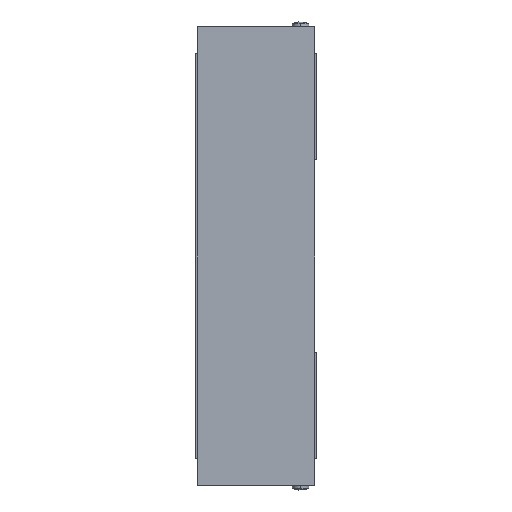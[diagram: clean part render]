
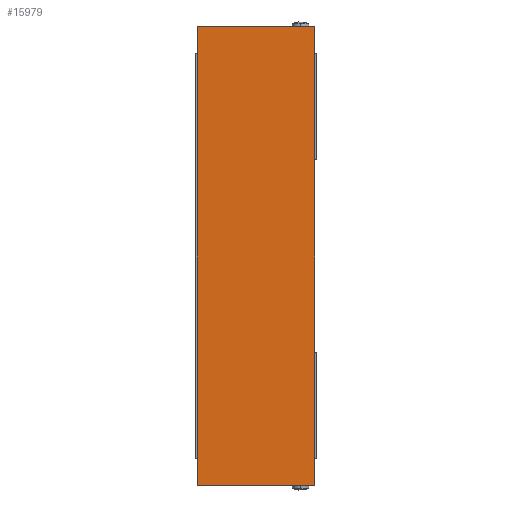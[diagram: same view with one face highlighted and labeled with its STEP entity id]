
A CAD part, left-side view. The second image highlights one B-rep face of the part: STEP entity #15979.
In plain terms, the highlighted planar face has unit normal (-1, 0, 0).
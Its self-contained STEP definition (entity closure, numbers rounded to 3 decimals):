
#11514 = DIRECTION ( 'NONE',  ( 0., 0., -1. ) ) ;
#11515 = VECTOR ( 'NONE', #11514, 1000. ) ;
#11516 = CARTESIAN_POINT ( 'NONE',  ( -266., 59., -113. ) ) ;
#11517 = LINE ( 'NONE', #11516, #11515 ) ;
#11553 = CARTESIAN_POINT ( 'NONE',  ( -266., 1., 113. ) ) ;
#11919 = DIRECTION ( 'NONE',  ( 0., 0., -1. ) ) ;
#11920 = DIRECTION ( 'NONE',  ( 1., 0., 0. ) ) ;
#11921 = CARTESIAN_POINT ( 'NONE',  ( -266., 59., -113. ) ) ;
#11932 = AXIS2_PLACEMENT_3D ( 'NONE', #11921, #11920, #11919 ) ;
#11933 = PLANE ( 'NONE',  #11932 ) ;
#11934 = FACE_OUTER_BOUND ( 'NONE', #15980, .T. ) ;
#12055 = CARTESIAN_POINT ( 'NONE',  ( -266., 1., -113. ) ) ;
#12068 = LINE ( 'NONE', #12085, #12084 ) ;
#12073 = VECTOR ( 'NONE', #12080, 1000. ) ;
#12074 = CARTESIAN_POINT ( 'NONE',  ( -266., 1., 113. ) ) ;
#12075 = LINE ( 'NONE', #12074, #12073 ) ;
#12080 = DIRECTION ( 'NONE',  ( 0., 1., 0. ) ) ;
#12084 = VECTOR ( 'NONE', #12094, 1000. ) ;
#12085 = CARTESIAN_POINT ( 'NONE',  ( -266., 1., -113. ) ) ;
#12093 = CARTESIAN_POINT ( 'NONE',  ( -266., 59., -113. ) ) ;
#12094 = DIRECTION ( 'NONE',  ( 0., -1., 0. ) ) ;
#12163 = DIRECTION ( 'NONE',  ( 0., 0., 1. ) ) ;
#12164 = VECTOR ( 'NONE', #12163, 1000. ) ;
#12165 = CARTESIAN_POINT ( 'NONE',  ( -266., 1., -113. ) ) ;
#12166 = LINE ( 'NONE', #12165, #12164 ) ;
#12167 = CARTESIAN_POINT ( 'NONE',  ( -266., 59., 113. ) ) ;
#15740 = EDGE_CURVE ( 'NONE', #16065, #16011, #11517, .T. ) ;
#15742 = VERTEX_POINT ( 'NONE', #11553 ) ;
#15979 = ADVANCED_FACE ( 'NONE', ( #11934 ), #11933, .F. ) ;
#15980 = EDGE_LOOP ( 'NONE', ( #15981, #16010, #16067, #16077 ) ) ;
#15981 = ORIENTED_EDGE ( 'NONE', *, *, #16009, .T. ) ;
#16004 = VERTEX_POINT ( 'NONE', #12055 ) ;
#16009 = EDGE_CURVE ( 'NONE', #16011, #16004, #12068, .T. ) ;
#16010 = ORIENTED_EDGE ( 'NONE', *, *, #16066, .T. ) ;
#16011 = VERTEX_POINT ( 'NONE', #12093 ) ;
#16020 = EDGE_CURVE ( 'NONE', #15742, #16065, #12075, .T. ) ;
#16065 = VERTEX_POINT ( 'NONE', #12167 ) ;
#16066 = EDGE_CURVE ( 'NONE', #16004, #15742, #12166, .T. ) ;
#16067 = ORIENTED_EDGE ( 'NONE', *, *, #16020, .T. ) ;
#16077 = ORIENTED_EDGE ( 'NONE', *, *, #15740, .T. ) ;
